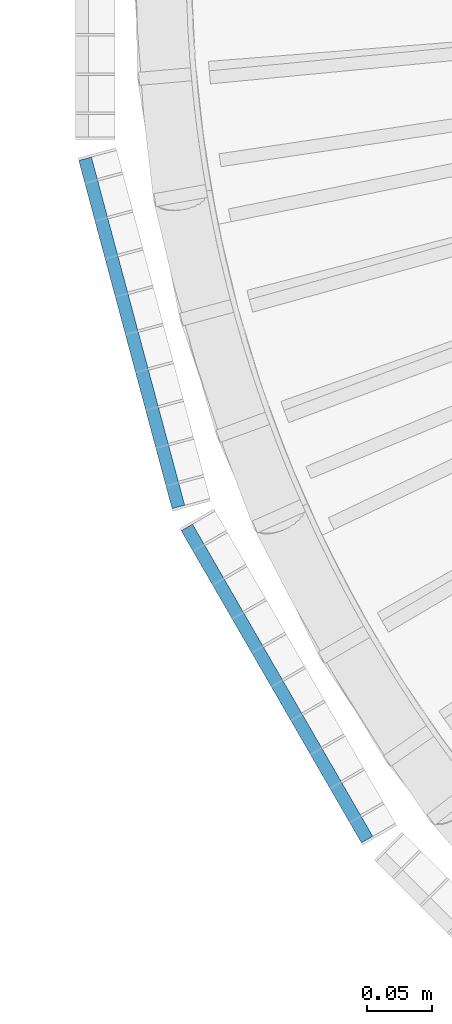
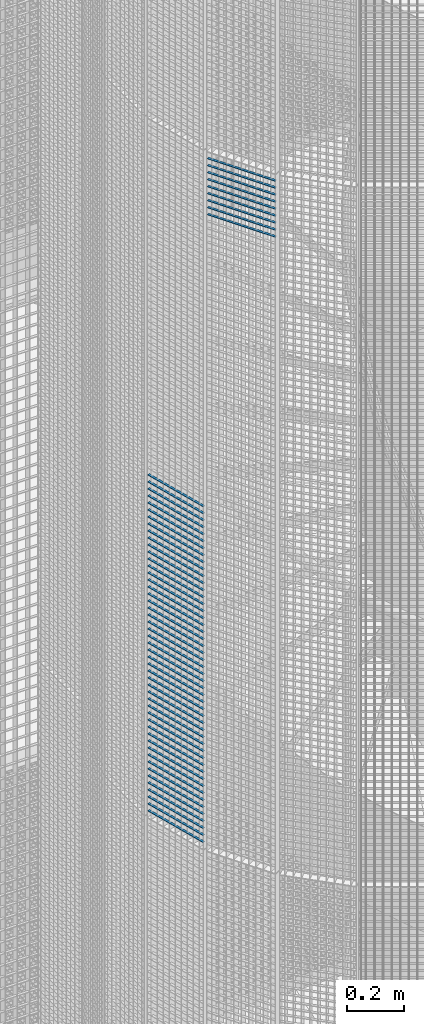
# One storey, part 346 of 1183: 58 beams, 2 elements without a shape of their own.
"""IFC2X3 building model written with IfcOpenShell, lengths in millimetres."""

from ifc_helpers import new_model, si_unit, frame, origin_with_axes, origin_2d_with_axis, place, context, subcontext, project, spatial, rectangle, extrude, material, type_object, element, aggregate, save


model = new_model("IFC2X3")

# Units and contexts
model_context = context("Model", 3, precision=1e-05, world=origin_with_axes())
body_context = subcontext(model_context, "Body", "Model", "MODEL_VIEW")
ifc_project = project(units=[si_unit("LENGTHUNIT", "METRE", prefix="MILLI"), si_unit("AREAUNIT", "SQUARE_METRE"), si_unit("VOLUMEUNIT", "CUBIC_METRE"), si_unit("MASSUNIT", "GRAM", prefix="KILO"), si_unit("TIMEUNIT", "SECOND"), si_unit("PLANEANGLEUNIT", "RADIAN"), si_unit("SOLIDANGLEUNIT", "STERADIAN"), si_unit("THERMODYNAMICTEMPERATUREUNIT", "DEGREE_CELSIUS"), si_unit("LUMINOUSINTENSITYUNIT", "LUMEN")], contexts=[model_context])

# Site, building, storey
site_placement = place(None, origin_with_axes())
site = spatial("IfcSite", under=ifc_project, at=site_placement, Name="Undefined", CompositionType="ELEMENT")
building_placement = place(site_placement, origin_with_axes())
building = spatial("IfcBuilding", under=site, at=building_placement, Name="Undefined", CompositionType="ELEMENT")
storey_placement = place(building_placement, origin_with_axes())
storey = spatial("IfcBuildingStorey", under=building, at=storey_placement, Name="Undefined", CompositionType="ELEMENT", Elevation=0.0)

# Assembly, beams
assembly_1_placement = place(storey_placement, origin_with_axes())
assembly_1 = element("IfcElementAssembly", 1, at=assembly_1_placement, inside=storey, Name="BORDURE", AssemblyPlace="NOTDEFINED", PredefinedType="NOTDEFINED")
ifc_material = material(Name="STEEL/S235JR")
beam_type = type_object("IfcBeamType", Name="PL2*10", PredefinedType="NOTDEFINED")
beam_1_placement = place(assembly_1_placement, frame((20560.1769047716, -421.483733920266, 13470.0), z_axis=(-0.965925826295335, -0.258819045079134, 0.0), x_axis=(-0.258819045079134, 0.965925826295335, 0.0)))
beam_1 = element("IfcBeam", 2, at=beam_1_placement, type_object=beam_type, material=ifc_material, Name="ENTRETOISE", context=body_context, shape_type="SweptSolid", body=[
    extrude(rectangle(XDim=2.0, YDim=10.0, at=origin_2d_with_axis()), frame((275.999999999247, 9.09494701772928e-13, 1.53210777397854e-14), z_axis=(-1.0, 0.0, 0.0), x_axis=(0.0, -1.0, 0.0)), (0.0, 0.0, 1.0), 276.0),
])
beam_2_placement = place(assembly_1_placement, frame((20560.1769047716, -421.483733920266, 13440.0), z_axis=(-0.965925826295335, -0.258819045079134, 0.0), x_axis=(-0.258819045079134, 0.965925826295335, 0.0)))
beam_2 = element("IfcBeam", 3, at=beam_2_placement, type_object=beam_type, material=ifc_material, Name="ENTRETOISE", context=body_context, shape_type="SweptSolid", body=[
    extrude(rectangle(XDim=2.0, YDim=10.0, at=origin_2d_with_axis()), frame((275.999999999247, 9.09494701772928e-13, 1.53210777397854e-14), z_axis=(-1.0, 0.0, 0.0), x_axis=(0.0, -1.0, 0.0)), (0.0, 0.0, 1.0), 276.0),
])
beam_3_placement = place(assembly_1_placement, frame((20560.1769047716, -421.483733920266, 13410.0), z_axis=(-0.965925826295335, -0.258819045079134, 0.0), x_axis=(-0.258819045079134, 0.965925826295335, 0.0)))
beam_3 = element("IfcBeam", 4, at=beam_3_placement, type_object=beam_type, material=ifc_material, Name="ENTRETOISE", context=body_context, shape_type="SweptSolid", body=[
    extrude(rectangle(XDim=2.0, YDim=10.0, at=origin_2d_with_axis()), frame((275.999999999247, 9.09494701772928e-13, 1.53210777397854e-14), z_axis=(-1.0, 0.0, 0.0), x_axis=(0.0, -1.0, 0.0)), (0.0, 0.0, 1.0), 276.0),
])
beam_4_placement = place(assembly_1_placement, frame((20560.1769047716, -421.483733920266, 13380.0), z_axis=(-0.965925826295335, -0.258819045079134, 0.0), x_axis=(-0.258819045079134, 0.965925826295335, 0.0)))
beam_4 = element("IfcBeam", 5, at=beam_4_placement, type_object=beam_type, material=ifc_material, Name="ENTRETOISE", context=body_context, shape_type="SweptSolid", body=[
    extrude(rectangle(XDim=2.0, YDim=10.0, at=origin_2d_with_axis()), frame((275.999999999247, 9.09494701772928e-13, 1.53210777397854e-14), z_axis=(-1.0, 0.0, 0.0), x_axis=(0.0, -1.0, 0.0)), (0.0, 0.0, 1.0), 276.0),
])
beam_5_placement = place(assembly_1_placement, frame((20560.1769047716, -421.483733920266, 13350.0), z_axis=(-0.965925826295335, -0.258819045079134, 0.0), x_axis=(-0.258819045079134, 0.965925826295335, 0.0)))
beam_5 = element("IfcBeam", 6, at=beam_5_placement, type_object=beam_type, material=ifc_material, Name="ENTRETOISE", context=body_context, shape_type="SweptSolid", body=[
    extrude(rectangle(XDim=2.0, YDim=10.0, at=origin_2d_with_axis()), frame((275.999999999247, 9.09494701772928e-13, 1.53210777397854e-14), z_axis=(-1.0, 0.0, 0.0), x_axis=(0.0, -1.0, 0.0)), (0.0, 0.0, 1.0), 276.0),
])
beam_6_placement = place(assembly_1_placement, frame((20560.1769047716, -421.483733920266, 13320.0), z_axis=(-0.965925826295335, -0.258819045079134, 0.0), x_axis=(-0.258819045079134, 0.965925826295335, 0.0)))
beam_6 = element("IfcBeam", 7, at=beam_6_placement, type_object=beam_type, material=ifc_material, Name="ENTRETOISE", context=body_context, shape_type="SweptSolid", body=[
    extrude(rectangle(XDim=2.0, YDim=10.0, at=origin_2d_with_axis()), frame((275.999999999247, 9.09494701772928e-13, 1.53210777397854e-14), z_axis=(-1.0, 0.0, 0.0), x_axis=(0.0, -1.0, 0.0)), (0.0, 0.0, 1.0), 276.0),
])
beam_7_placement = place(assembly_1_placement, frame((20560.1769047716, -421.483733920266, 13290.0), z_axis=(-0.965925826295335, -0.258819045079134, 0.0), x_axis=(-0.258819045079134, 0.965925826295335, 0.0)))
beam_7 = element("IfcBeam", 8, at=beam_7_placement, type_object=beam_type, material=ifc_material, Name="ENTRETOISE", context=body_context, shape_type="SweptSolid", body=[
    extrude(rectangle(XDim=2.0, YDim=10.0, at=origin_2d_with_axis()), frame((275.999999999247, 9.09494701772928e-13, 1.53210777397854e-14), z_axis=(-1.0, 0.0, 0.0), x_axis=(0.0, -1.0, 0.0)), (0.0, 0.0, 1.0), 276.0),
])
beam_8_placement = place(assembly_1_placement, frame((20560.1769047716, -421.483733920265, 13260.0), z_axis=(-0.965925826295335, -0.258819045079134, 0.0), x_axis=(-0.258819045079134, 0.965925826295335, 0.0)))
beam_8 = element("IfcBeam", 9, at=beam_8_placement, type_object=beam_type, material=ifc_material, Name="ENTRETOISE", context=body_context, shape_type="SweptSolid", body=[
    extrude(rectangle(XDim=2.0, YDim=10.0, at=origin_2d_with_axis()), frame((275.999999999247, 9.09494701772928e-13, 1.53210777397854e-14), z_axis=(-1.0, 0.0, 0.0), x_axis=(0.0, -1.0, 0.0)), (0.0, 0.0, 1.0), 276.0),
])
beam_9_placement = place(assembly_1_placement, frame((20560.1769047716, -421.483733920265, 13230.0), z_axis=(-0.965925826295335, -0.258819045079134, 0.0), x_axis=(-0.258819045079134, 0.965925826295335, 0.0)))
beam_9 = element("IfcBeam", 10, at=beam_9_placement, type_object=beam_type, material=ifc_material, Name="ENTRETOISE", context=body_context, shape_type="SweptSolid", body=[
    extrude(rectangle(XDim=2.0, YDim=10.0, at=origin_2d_with_axis()), frame((275.999999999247, 9.09494701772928e-13, 1.53210777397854e-14), z_axis=(-1.0, 0.0, 0.0), x_axis=(0.0, -1.0, 0.0)), (0.0, 0.0, 1.0), 276.0),
])
beam_10_placement = place(assembly_1_placement, frame((20560.1769047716, -421.483733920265, 13200.0), z_axis=(-0.965925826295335, -0.258819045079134, 0.0), x_axis=(-0.258819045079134, 0.965925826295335, 0.0)))
beam_10 = element("IfcBeam", 11, at=beam_10_placement, type_object=beam_type, material=ifc_material, Name="ENTRETOISE", context=body_context, shape_type="SweptSolid", body=[
    extrude(rectangle(XDim=2.0, YDim=10.0, at=origin_2d_with_axis()), frame((275.999999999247, 9.09494701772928e-13, 1.53210777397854e-14), z_axis=(-1.0, 0.0, 0.0), x_axis=(0.0, -1.0, 0.0)), (0.0, 0.0, 1.0), 276.0),
])
beam_11_placement = place(assembly_1_placement, frame((20560.1769047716, -421.483733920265, 13170.0), z_axis=(-0.965925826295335, -0.258819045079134, 0.0), x_axis=(-0.258819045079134, 0.965925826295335, 0.0)))
beam_11 = element("IfcBeam", 12, at=beam_11_placement, type_object=beam_type, material=ifc_material, Name="ENTRETOISE", context=body_context, shape_type="SweptSolid", body=[
    extrude(rectangle(XDim=2.0, YDim=10.0, at=origin_2d_with_axis()), frame((275.999999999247, 9.09494701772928e-13, 1.53210777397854e-14), z_axis=(-1.0, 0.0, 0.0), x_axis=(0.0, -1.0, 0.0)), (0.0, 0.0, 1.0), 276.0),
])
beam_12_placement = place(assembly_1_placement, frame((20560.1769047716, -421.483733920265, 13140.0), z_axis=(-0.965925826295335, -0.258819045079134, 0.0), x_axis=(-0.258819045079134, 0.965925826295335, 0.0)))
beam_12 = element("IfcBeam", 13, at=beam_12_placement, type_object=beam_type, material=ifc_material, Name="ENTRETOISE", context=body_context, shape_type="SweptSolid", body=[
    extrude(rectangle(XDim=2.0, YDim=10.0, at=origin_2d_with_axis()), frame((275.999999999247, 9.09494701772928e-13, 1.53210777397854e-14), z_axis=(-1.0, 0.0, 0.0), x_axis=(0.0, -1.0, 0.0)), (0.0, 0.0, 1.0), 276.0),
])
beam_13_placement = place(assembly_1_placement, frame((20560.1769047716, -421.483733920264, 12720.0), z_axis=(-0.965925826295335, -0.258819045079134, 0.0), x_axis=(-0.258819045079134, 0.965925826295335, 0.0)))
beam_13 = element("IfcBeam", 14, at=beam_13_placement, type_object=beam_type, material=ifc_material, Name="ENTRETOISE", context=body_context, shape_type="SweptSolid", body=[
    extrude(rectangle(XDim=2.0, YDim=10.0, at=origin_2d_with_axis()), frame((275.999999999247, 9.09494701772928e-13, 1.53210777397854e-14), z_axis=(-1.0, 0.0, 0.0), x_axis=(0.0, -1.0, 0.0)), (0.0, 0.0, 1.0), 276.0),
])
beam_14_placement = place(assembly_1_placement, frame((20560.1769047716, -421.483733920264, 12690.0), z_axis=(-0.965925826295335, -0.258819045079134, 0.0), x_axis=(-0.258819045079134, 0.965925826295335, 0.0)))
beam_14 = element("IfcBeam", 15, at=beam_14_placement, type_object=beam_type, material=ifc_material, Name="ENTRETOISE", context=body_context, shape_type="SweptSolid", body=[
    extrude(rectangle(XDim=2.0, YDim=10.0, at=origin_2d_with_axis()), frame((275.999999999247, 9.09494701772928e-13, 1.53210777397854e-14), z_axis=(-1.0, 0.0, 0.0), x_axis=(0.0, -1.0, 0.0)), (0.0, 0.0, 1.0), 276.0),
])
beam_15_placement = place(assembly_1_placement, frame((20560.1769047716, -421.483733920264, 12750.0), z_axis=(-0.965925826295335, -0.258819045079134, 0.0), x_axis=(-0.258819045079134, 0.965925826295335, 0.0)))
beam_15 = element("IfcBeam", 16, at=beam_15_placement, type_object=beam_type, material=ifc_material, Name="ENTRETOISE", context=body_context, shape_type="SweptSolid", body=[
    extrude(rectangle(XDim=2.0, YDim=10.0, at=origin_2d_with_axis()), frame((275.999999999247, 9.09494701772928e-13, 1.53210777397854e-14), z_axis=(-1.0, 0.0, 0.0), x_axis=(0.0, -1.0, 0.0)), (0.0, 0.0, 1.0), 276.0),
])
beam_16_placement = place(assembly_1_placement, frame((20560.1769047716, -421.483733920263, 12660.0), z_axis=(-0.965925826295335, -0.258819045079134, 0.0), x_axis=(-0.258819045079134, 0.965925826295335, 0.0)))
beam_16 = element("IfcBeam", 17, at=beam_16_placement, type_object=beam_type, material=ifc_material, Name="ENTRETOISE", context=body_context, shape_type="SweptSolid", body=[
    extrude(rectangle(XDim=2.0, YDim=10.0, at=origin_2d_with_axis()), frame((275.999999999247, 9.09494701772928e-13, 1.53210777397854e-14), z_axis=(-1.0, 0.0, 0.0), x_axis=(0.0, -1.0, 0.0)), (0.0, 0.0, 1.0), 276.0),
])
beam_17_placement = place(assembly_1_placement, frame((20560.1769047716, -421.483733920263, 12630.0), z_axis=(-0.965925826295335, -0.258819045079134, 0.0), x_axis=(-0.258819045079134, 0.965925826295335, 0.0)))
beam_17 = element("IfcBeam", 18, at=beam_17_placement, type_object=beam_type, material=ifc_material, Name="ENTRETOISE", context=body_context, shape_type="SweptSolid", body=[
    extrude(rectangle(XDim=2.0, YDim=10.0, at=origin_2d_with_axis()), frame((275.999999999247, 9.09494701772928e-13, 1.53210777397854e-14), z_axis=(-1.0, 0.0, 0.0), x_axis=(0.0, -1.0, 0.0)), (0.0, 0.0, 1.0), 276.0),
])
beam_18_placement = place(assembly_1_placement, frame((20560.1769047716, -421.483733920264, 12780.0), z_axis=(-0.965925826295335, -0.258819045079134, 0.0), x_axis=(-0.258819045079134, 0.965925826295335, 0.0)))
beam_18 = element("IfcBeam", 19, at=beam_18_placement, type_object=beam_type, material=ifc_material, Name="ENTRETOISE", context=body_context, shape_type="SweptSolid", body=[
    extrude(rectangle(XDim=2.0, YDim=10.0, at=origin_2d_with_axis()), frame((275.999999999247, 9.09494701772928e-13, 1.53210777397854e-14), z_axis=(-1.0, 0.0, 0.0), x_axis=(0.0, -1.0, 0.0)), (0.0, 0.0, 1.0), 276.0),
])
beam_19_placement = place(assembly_1_placement, frame((20560.1769047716, -421.483733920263, 12600.0), z_axis=(-0.965925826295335, -0.258819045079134, 0.0), x_axis=(-0.258819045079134, 0.965925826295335, 0.0)))
beam_19 = element("IfcBeam", 20, at=beam_19_placement, type_object=beam_type, material=ifc_material, Name="ENTRETOISE", context=body_context, shape_type="SweptSolid", body=[
    extrude(rectangle(XDim=2.0, YDim=10.0, at=origin_2d_with_axis()), frame((275.999999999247, 9.09494701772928e-13, 1.53210777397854e-14), z_axis=(-1.0, 0.0, 0.0), x_axis=(0.0, -1.0, 0.0)), (0.0, 0.0, 1.0), 276.0),
])
beam_20_placement = place(assembly_1_placement, frame((20560.1769047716, -421.483733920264, 12810.0), z_axis=(-0.965925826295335, -0.258819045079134, 0.0), x_axis=(-0.258819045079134, 0.965925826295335, 0.0)))
beam_20 = element("IfcBeam", 21, at=beam_20_placement, type_object=beam_type, material=ifc_material, Name="ENTRETOISE", context=body_context, shape_type="SweptSolid", body=[
    extrude(rectangle(XDim=2.0, YDim=10.0, at=origin_2d_with_axis()), frame((275.999999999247, 9.09494701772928e-13, 1.53210777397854e-14), z_axis=(-1.0, 0.0, 0.0), x_axis=(0.0, -1.0, 0.0)), (0.0, 0.0, 1.0), 276.0),
])
beam_21_placement = place(assembly_1_placement, frame((20560.1769047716, -421.483733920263, 12570.0), z_axis=(-0.965925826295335, -0.258819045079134, 0.0), x_axis=(-0.258819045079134, 0.965925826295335, 0.0)))
beam_21 = element("IfcBeam", 22, at=beam_21_placement, type_object=beam_type, material=ifc_material, Name="ENTRETOISE", context=body_context, shape_type="SweptSolid", body=[
    extrude(rectangle(XDim=2.0, YDim=10.0, at=origin_2d_with_axis()), frame((275.999999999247, 9.09494701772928e-13, 1.53210777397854e-14), z_axis=(-1.0, 0.0, 0.0), x_axis=(0.0, -1.0, 0.0)), (0.0, 0.0, 1.0), 276.0),
])
beam_22_placement = place(assembly_1_placement, frame((20560.1769047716, -421.483733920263, 12540.0), z_axis=(-0.965925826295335, -0.258819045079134, 0.0), x_axis=(-0.258819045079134, 0.965925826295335, 0.0)))
beam_22 = element("IfcBeam", 23, at=beam_22_placement, type_object=beam_type, material=ifc_material, Name="ENTRETOISE", context=body_context, shape_type="SweptSolid", body=[
    extrude(rectangle(XDim=2.0, YDim=10.0, at=origin_2d_with_axis()), frame((275.999999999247, 9.09494701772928e-13, 1.53210777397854e-14), z_axis=(-1.0, 0.0, 0.0), x_axis=(0.0, -1.0, 0.0)), (0.0, 0.0, 1.0), 276.0),
])
beam_23_placement = place(assembly_1_placement, frame((20560.1769047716, -421.483733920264, 12840.0), z_axis=(-0.965925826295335, -0.258819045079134, 0.0), x_axis=(-0.258819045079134, 0.965925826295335, 0.0)))
beam_23 = element("IfcBeam", 24, at=beam_23_placement, type_object=beam_type, material=ifc_material, Name="ENTRETOISE", context=body_context, shape_type="SweptSolid", body=[
    extrude(rectangle(XDim=2.0, YDim=10.0, at=origin_2d_with_axis()), frame((275.999999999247, 9.09494701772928e-13, 1.53210777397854e-14), z_axis=(-1.0, 0.0, 0.0), x_axis=(0.0, -1.0, 0.0)), (0.0, 0.0, 1.0), 276.0),
])
beam_24_placement = place(assembly_1_placement, frame((20560.1769047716, -421.483733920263, 12510.0), z_axis=(-0.965925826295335, -0.258819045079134, 0.0), x_axis=(-0.258819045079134, 0.965925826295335, 0.0)))
beam_24 = element("IfcBeam", 25, at=beam_24_placement, type_object=beam_type, material=ifc_material, Name="ENTRETOISE", context=body_context, shape_type="SweptSolid", body=[
    extrude(rectangle(XDim=2.0, YDim=10.0, at=origin_2d_with_axis()), frame((275.999999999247, 9.09494701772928e-13, 1.53210777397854e-14), z_axis=(-1.0, 0.0, 0.0), x_axis=(0.0, -1.0, 0.0)), (0.0, 0.0, 1.0), 276.0),
])
beam_25_placement = place(assembly_1_placement, frame((20560.1769047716, -421.483733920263, 12480.0), z_axis=(-0.965925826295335, -0.258819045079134, 0.0), x_axis=(-0.258819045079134, 0.965925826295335, 0.0)))
beam_25 = element("IfcBeam", 26, at=beam_25_placement, type_object=beam_type, material=ifc_material, Name="ENTRETOISE", context=body_context, shape_type="SweptSolid", body=[
    extrude(rectangle(XDim=2.0, YDim=10.0, at=origin_2d_with_axis()), frame((275.999999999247, 9.09494701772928e-13, 1.53210777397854e-14), z_axis=(-1.0, 0.0, 0.0), x_axis=(0.0, -1.0, 0.0)), (0.0, 0.0, 1.0), 276.0),
])
beam_26_placement = place(assembly_1_placement, frame((20560.1769047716, -421.483733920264, 12870.0), z_axis=(-0.965925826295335, -0.258819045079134, 0.0), x_axis=(-0.258819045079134, 0.965925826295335, 0.0)))
beam_26 = element("IfcBeam", 27, at=beam_26_placement, type_object=beam_type, material=ifc_material, Name="ENTRETOISE", context=body_context, shape_type="SweptSolid", body=[
    extrude(rectangle(XDim=2.0, YDim=10.0, at=origin_2d_with_axis()), frame((275.999999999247, 9.09494701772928e-13, 1.53210777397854e-14), z_axis=(-1.0, 0.0, 0.0), x_axis=(0.0, -1.0, 0.0)), (0.0, 0.0, 1.0), 276.0),
])
beam_27_placement = place(assembly_1_placement, frame((20560.1769047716, -421.483733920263, 12450.0), z_axis=(-0.965925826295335, -0.258819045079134, 0.0), x_axis=(-0.258819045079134, 0.965925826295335, 0.0)))
beam_27 = element("IfcBeam", 28, at=beam_27_placement, type_object=beam_type, material=ifc_material, Name="ENTRETOISE", context=body_context, shape_type="SweptSolid", body=[
    extrude(rectangle(XDim=2.0, YDim=10.0, at=origin_2d_with_axis()), frame((275.999999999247, 9.09494701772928e-13, 1.53210777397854e-14), z_axis=(-1.0, 0.0, 0.0), x_axis=(0.0, -1.0, 0.0)), (0.0, 0.0, 1.0), 276.0),
])
beam_28_placement = place(assembly_1_placement, frame((20560.1769047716, -421.483733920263, 12420.0), z_axis=(-0.965925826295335, -0.258819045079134, 0.0), x_axis=(-0.258819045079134, 0.965925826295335, 0.0)))
beam_28 = element("IfcBeam", 29, at=beam_28_placement, type_object=beam_type, material=ifc_material, Name="ENTRETOISE", context=body_context, shape_type="SweptSolid", body=[
    extrude(rectangle(XDim=2.0, YDim=10.0, at=origin_2d_with_axis()), frame((275.999999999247, 9.09494701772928e-13, 1.53210777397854e-14), z_axis=(-1.0, 0.0, 0.0), x_axis=(0.0, -1.0, 0.0)), (0.0, 0.0, 1.0), 276.0),
])
beam_29_placement = place(assembly_1_placement, frame((20560.1769047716, -421.483733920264, 12900.0), z_axis=(-0.965925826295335, -0.258819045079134, 0.0), x_axis=(-0.258819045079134, 0.965925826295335, 0.0)))
beam_29 = element("IfcBeam", 30, at=beam_29_placement, type_object=beam_type, material=ifc_material, Name="ENTRETOISE", context=body_context, shape_type="SweptSolid", body=[
    extrude(rectangle(XDim=2.0, YDim=10.0, at=origin_2d_with_axis()), frame((275.999999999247, 9.09494701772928e-13, 1.53210777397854e-14), z_axis=(-1.0, 0.0, 0.0), x_axis=(0.0, -1.0, 0.0)), (0.0, 0.0, 1.0), 276.0),
])
beam_30_placement = place(assembly_1_placement, frame((20560.1769047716, -421.483733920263, 12390.0), z_axis=(-0.965925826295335, -0.258819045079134, 0.0), x_axis=(-0.258819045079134, 0.965925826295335, 0.0)))
beam_30 = element("IfcBeam", 31, at=beam_30_placement, type_object=beam_type, material=ifc_material, Name="ENTRETOISE", context=body_context, shape_type="SweptSolid", body=[
    extrude(rectangle(XDim=2.0, YDim=10.0, at=origin_2d_with_axis()), frame((275.999999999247, 9.09494701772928e-13, 1.53210777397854e-14), z_axis=(-1.0, 0.0, 0.0), x_axis=(0.0, -1.0, 0.0)), (0.0, 0.0, 1.0), 276.0),
])
beam_31_placement = place(assembly_1_placement, frame((20560.1769047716, -421.483733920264, 12930.0), z_axis=(-0.965925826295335, -0.258819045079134, 0.0), x_axis=(-0.258819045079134, 0.965925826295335, 0.0)))
beam_31 = element("IfcBeam", 32, at=beam_31_placement, type_object=beam_type, material=ifc_material, Name="ENTRETOISE", context=body_context, shape_type="SweptSolid", body=[
    extrude(rectangle(XDim=2.0, YDim=10.0, at=origin_2d_with_axis()), frame((275.999999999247, 9.09494701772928e-13, 1.53210777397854e-14), z_axis=(-1.0, 0.0, 0.0), x_axis=(0.0, -1.0, 0.0)), (0.0, 0.0, 1.0), 276.0),
])
beam_32_placement = place(assembly_1_placement, frame((20560.1769047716, -421.483733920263, 12360.0), z_axis=(-0.965925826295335, -0.258819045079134, 0.0), x_axis=(-0.258819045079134, 0.965925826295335, 0.0)))
beam_32 = element("IfcBeam", 33, at=beam_32_placement, type_object=beam_type, material=ifc_material, Name="ENTRETOISE", context=body_context, shape_type="SweptSolid", body=[
    extrude(rectangle(XDim=2.0, YDim=10.0, at=origin_2d_with_axis()), frame((275.999999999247, 9.09494701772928e-13, 1.53210777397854e-14), z_axis=(-1.0, 0.0, 0.0), x_axis=(0.0, -1.0, 0.0)), (0.0, 0.0, 1.0), 276.0),
])
beam_33_placement = place(assembly_1_placement, frame((20560.1769047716, -421.483733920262, 12330.0), z_axis=(-0.965925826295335, -0.258819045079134, 0.0), x_axis=(-0.258819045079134, 0.965925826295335, 0.0)))
beam_33 = element("IfcBeam", 34, at=beam_33_placement, type_object=beam_type, material=ifc_material, Name="ENTRETOISE", context=body_context, shape_type="SweptSolid", body=[
    extrude(rectangle(XDim=2.0, YDim=10.0, at=origin_2d_with_axis()), frame((275.999999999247, 9.09494701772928e-13, 1.53210777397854e-14), z_axis=(-1.0, 0.0, 0.0), x_axis=(0.0, -1.0, 0.0)), (0.0, 0.0, 1.0), 276.0),
])
beam_34_placement = place(assembly_1_placement, frame((20560.1769047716, -421.483733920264, 12960.0), z_axis=(-0.965925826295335, -0.258819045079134, 0.0), x_axis=(-0.258819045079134, 0.965925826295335, 0.0)))
beam_34 = element("IfcBeam", 35, at=beam_34_placement, type_object=beam_type, material=ifc_material, Name="ENTRETOISE", context=body_context, shape_type="SweptSolid", body=[
    extrude(rectangle(XDim=2.0, YDim=10.0, at=origin_2d_with_axis()), frame((275.999999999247, 9.09494701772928e-13, 1.53210777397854e-14), z_axis=(-1.0, 0.0, 0.0), x_axis=(0.0, -1.0, 0.0)), (0.0, 0.0, 1.0), 276.0),
])
beam_35_placement = place(assembly_1_placement, frame((20560.1769047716, -421.483733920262, 12300.0), z_axis=(-0.965925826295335, -0.258819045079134, 0.0), x_axis=(-0.258819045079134, 0.965925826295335, 0.0)))
beam_35 = element("IfcBeam", 36, at=beam_35_placement, type_object=beam_type, material=ifc_material, Name="ENTRETOISE", context=body_context, shape_type="SweptSolid", body=[
    extrude(rectangle(XDim=2.0, YDim=10.0, at=origin_2d_with_axis()), frame((275.999999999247, 9.09494701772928e-13, 1.53210777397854e-14), z_axis=(-1.0, 0.0, 0.0), x_axis=(0.0, -1.0, 0.0)), (0.0, 0.0, 1.0), 276.0),
])
beam_36_placement = place(assembly_1_placement, frame((20560.1769047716, -421.483733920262, 12270.0), z_axis=(-0.965925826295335, -0.258819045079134, 0.0), x_axis=(-0.258819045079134, 0.965925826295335, 0.0)))
beam_36 = element("IfcBeam", 37, at=beam_36_placement, type_object=beam_type, material=ifc_material, Name="ENTRETOISE", context=body_context, shape_type="SweptSolid", body=[
    extrude(rectangle(XDim=2.0, YDim=10.0, at=origin_2d_with_axis()), frame((275.999999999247, 9.09494701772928e-13, 1.53210777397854e-14), z_axis=(-1.0, 0.0, 0.0), x_axis=(0.0, -1.0, 0.0)), (0.0, 0.0, 1.0), 276.0),
])
beam_37_placement = place(assembly_1_placement, frame((20560.1769047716, -421.483733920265, 12990.0), z_axis=(-0.965925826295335, -0.258819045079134, 0.0), x_axis=(-0.258819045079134, 0.965925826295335, 0.0)))
beam_37 = element("IfcBeam", 38, at=beam_37_placement, type_object=beam_type, material=ifc_material, Name="ENTRETOISE", context=body_context, shape_type="SweptSolid", body=[
    extrude(rectangle(XDim=2.0, YDim=10.0, at=origin_2d_with_axis()), frame((275.999999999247, 9.09494701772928e-13, 1.53210777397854e-14), z_axis=(-1.0, 0.0, 0.0), x_axis=(0.0, -1.0, 0.0)), (0.0, 0.0, 1.0), 276.0),
])
beam_38_placement = place(assembly_1_placement, frame((20560.1769047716, -421.483733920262, 12240.0), z_axis=(-0.965925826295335, -0.258819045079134, 0.0), x_axis=(-0.258819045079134, 0.965925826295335, 0.0)))
beam_38 = element("IfcBeam", 39, at=beam_38_placement, type_object=beam_type, material=ifc_material, Name="ENTRETOISE", context=body_context, shape_type="SweptSolid", body=[
    extrude(rectangle(XDim=2.0, YDim=10.0, at=origin_2d_with_axis()), frame((275.999999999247, 9.09494701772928e-13, 1.53210777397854e-14), z_axis=(-1.0, 0.0, 0.0), x_axis=(0.0, -1.0, 0.0)), (0.0, 0.0, 1.0), 276.0),
])
beam_39_placement = place(assembly_1_placement, frame((20560.1769047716, -421.483733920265, 13020.0), z_axis=(-0.965925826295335, -0.258819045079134, 0.0), x_axis=(-0.258819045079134, 0.965925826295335, 0.0)))
beam_39 = element("IfcBeam", 40, at=beam_39_placement, type_object=beam_type, material=ifc_material, Name="ENTRETOISE", context=body_context, shape_type="SweptSolid", body=[
    extrude(rectangle(XDim=2.0, YDim=10.0, at=origin_2d_with_axis()), frame((275.999999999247, 9.09494701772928e-13, 1.53210777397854e-14), z_axis=(-1.0, 0.0, 0.0), x_axis=(0.0, -1.0, 0.0)), (0.0, 0.0, 1.0), 276.0),
])
beam_40_placement = place(assembly_1_placement, frame((20560.1769047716, -421.483733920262, 12210.0), z_axis=(-0.965925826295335, -0.258819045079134, 0.0), x_axis=(-0.258819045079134, 0.965925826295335, 0.0)))
beam_40 = element("IfcBeam", 41, at=beam_40_placement, type_object=beam_type, material=ifc_material, Name="ENTRETOISE", context=body_context, shape_type="SweptSolid", body=[
    extrude(rectangle(XDim=2.0, YDim=10.0, at=origin_2d_with_axis()), frame((275.999999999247, 9.09494701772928e-13, 1.53210777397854e-14), z_axis=(-1.0, 0.0, 0.0), x_axis=(0.0, -1.0, 0.0)), (0.0, 0.0, 1.0), 276.0),
])
beam_41_placement = place(assembly_1_placement, frame((20560.1769047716, -421.483733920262, 12180.0), z_axis=(-0.965925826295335, -0.258819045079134, 0.0), x_axis=(-0.258819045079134, 0.965925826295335, 0.0)))
beam_41 = element("IfcBeam", 42, at=beam_41_placement, type_object=beam_type, material=ifc_material, Name="ENTRETOISE", context=body_context, shape_type="SweptSolid", body=[
    extrude(rectangle(XDim=2.0, YDim=10.0, at=origin_2d_with_axis()), frame((275.999999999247, 9.09494701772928e-13, 1.53210777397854e-14), z_axis=(-1.0, 0.0, 0.0), x_axis=(0.0, -1.0, 0.0)), (0.0, 0.0, 1.0), 276.0),
])
beam_42_placement = place(assembly_1_placement, frame((20560.1769047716, -421.483733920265, 13050.0), z_axis=(-0.965925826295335, -0.258819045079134, 0.0), x_axis=(-0.258819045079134, 0.965925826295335, 0.0)))
beam_42 = element("IfcBeam", 43, at=beam_42_placement, type_object=beam_type, material=ifc_material, Name="ENTRETOISE", context=body_context, shape_type="SweptSolid", body=[
    extrude(rectangle(XDim=2.0, YDim=10.0, at=origin_2d_with_axis()), frame((275.999999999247, 9.09494701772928e-13, 1.53210777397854e-14), z_axis=(-1.0, 0.0, 0.0), x_axis=(0.0, -1.0, 0.0)), (0.0, 0.0, 1.0), 276.0),
])
beam_43_placement = place(assembly_1_placement, frame((20560.1769047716, -421.483733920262, 12150.0), z_axis=(-0.965925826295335, -0.258819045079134, 0.0), x_axis=(-0.258819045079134, 0.965925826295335, 0.0)))
beam_43 = element("IfcBeam", 44, at=beam_43_placement, type_object=beam_type, material=ifc_material, Name="ENTRETOISE", context=body_context, shape_type="SweptSolid", body=[
    extrude(rectangle(XDim=2.0, YDim=10.0, at=origin_2d_with_axis()), frame((275.999999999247, 9.09494701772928e-13, 1.53210777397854e-14), z_axis=(-1.0, 0.0, 0.0), x_axis=(0.0, -1.0, 0.0)), (0.0, 0.0, 1.0), 276.0),
])
beam_44_placement = place(assembly_1_placement, frame((20560.1769047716, -421.483733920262, 12120.0), z_axis=(-0.965925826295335, -0.258819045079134, 0.0), x_axis=(-0.258819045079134, 0.965925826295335, 0.0)))
beam_44 = element("IfcBeam", 45, at=beam_44_placement, type_object=beam_type, material=ifc_material, Name="ENTRETOISE", context=body_context, shape_type="SweptSolid", body=[
    extrude(rectangle(XDim=2.0, YDim=10.0, at=origin_2d_with_axis()), frame((275.999999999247, 9.09494701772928e-13, 1.53210777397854e-14), z_axis=(-1.0, 0.0, 0.0), x_axis=(0.0, -1.0, 0.0)), (0.0, 0.0, 1.0), 276.0),
])
beam_45_placement = place(assembly_1_placement, frame((20560.1769047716, -421.483733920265, 13080.0), z_axis=(-0.965925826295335, -0.258819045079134, 0.0), x_axis=(-0.258819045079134, 0.965925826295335, 0.0)))
beam_45 = element("IfcBeam", 46, at=beam_45_placement, type_object=beam_type, material=ifc_material, Name="ENTRETOISE", context=body_context, shape_type="SweptSolid", body=[
    extrude(rectangle(XDim=2.0, YDim=10.0, at=origin_2d_with_axis()), frame((275.999999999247, 9.09494701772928e-13, 1.53210777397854e-14), z_axis=(-1.0, 0.0, 0.0), x_axis=(0.0, -1.0, 0.0)), (0.0, 0.0, 1.0), 276.0),
])
beam_46_placement = place(assembly_1_placement, frame((20560.1769047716, -421.483733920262, 12090.0), z_axis=(-0.965925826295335, -0.258819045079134, 0.0), x_axis=(-0.258819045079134, 0.965925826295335, 0.0)))
beam_46 = element("IfcBeam", 47, at=beam_46_placement, type_object=beam_type, material=ifc_material, Name="ENTRETOISE", context=body_context, shape_type="SweptSolid", body=[
    extrude(rectangle(XDim=2.0, YDim=10.0, at=origin_2d_with_axis()), frame((275.999999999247, 9.09494701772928e-13, 1.53210777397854e-14), z_axis=(-1.0, 0.0, 0.0), x_axis=(0.0, -1.0, 0.0)), (0.0, 0.0, 1.0), 276.0),
])
beam_47_placement = place(assembly_1_placement, frame((20560.1769047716, -421.483733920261, 12060.0), z_axis=(-0.965925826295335, -0.258819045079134, 0.0), x_axis=(-0.258819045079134, 0.965925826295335, 0.0)))
beam_47 = element("IfcBeam", 48, at=beam_47_placement, type_object=beam_type, material=ifc_material, Name="ENTRETOISE", context=body_context, shape_type="SweptSolid", body=[
    extrude(rectangle(XDim=2.0, YDim=10.0, at=origin_2d_with_axis()), frame((275.999999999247, 9.09494701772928e-13, 1.53210777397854e-14), z_axis=(-1.0, 0.0, 0.0), x_axis=(0.0, -1.0, 0.0)), (0.0, 0.0, 1.0), 276.0),
])
beam_48_placement = place(assembly_1_placement, frame((20560.1769047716, -421.483733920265, 13110.0), z_axis=(-0.965925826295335, -0.258819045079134, 0.0), x_axis=(-0.258819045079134, 0.965925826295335, 0.0)))
beam_48 = element("IfcBeam", 49, at=beam_48_placement, type_object=beam_type, material=ifc_material, Name="ENTRETOISE", context=body_context, shape_type="SweptSolid", body=[
    extrude(rectangle(XDim=2.0, YDim=10.0, at=origin_2d_with_axis()), frame((275.999999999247, 9.09494701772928e-13, 1.53210777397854e-14), z_axis=(-1.0, 0.0, 0.0), x_axis=(0.0, -1.0, 0.0)), (0.0, 0.0, 1.0), 276.0),
])
beam_49_placement = place(assembly_1_placement, frame((20560.1769047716, -421.48373392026, 12030.0), z_axis=(-0.965925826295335, -0.258819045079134, 0.0), x_axis=(-0.258819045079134, 0.965925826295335, 0.0)))
beam_49 = element("IfcBeam", 50, at=beam_49_placement, type_object=beam_type, material=ifc_material, Name="ENTRETOISE", context=body_context, shape_type="SweptSolid", body=[
    extrude(rectangle(XDim=2.0, YDim=10.0, at=origin_2d_with_axis()), frame((275.999999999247, 9.09494701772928e-13, 1.53210777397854e-14), z_axis=(-1.0, 0.0, 0.0), x_axis=(0.0, -1.0, 0.0)), (0.0, 0.0, 1.0), 276.0),
])
aggregate(assembly_1, [beam_1, beam_2, beam_3, beam_4, beam_5, beam_6, beam_7, beam_8, beam_9, beam_10, beam_11, beam_12, beam_13, beam_14, beam_15, beam_16, beam_17, beam_18, beam_19, beam_20, beam_21, beam_22, beam_23, beam_24, beam_25, beam_26, beam_27, beam_28, beam_29, beam_30, beam_31, beam_32, beam_33, beam_34, beam_35, beam_36, beam_37, beam_38, beam_39, beam_40, beam_41, beam_42, beam_43, beam_44, beam_45, beam_46, beam_47, beam_48, beam_49])

assembly_2_placement = place(storey_placement, origin_with_axes())
assembly_2 = element("IfcElementAssembly", 51, at=assembly_2_placement, inside=storey, Name="BORDURE", AssemblyPlace="NOTDEFINED", PredefinedType="NOTDEFINED")
beam_50_placement = place(assembly_2_placement, frame((20704.6960350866, -676.248044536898, 14970.0), z_axis=(-0.866025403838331, -0.499999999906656, 0.0), x_axis=(-0.49999999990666, 0.866025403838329, 0.0)))
beam_50 = element("IfcBeam", 52, at=beam_50_placement, type_object=beam_type, material=ifc_material, Name="ENTRETOISE", context=body_context, shape_type="SweptSolid", body=[
    extrude(rectangle(XDim=2.0, YDim=10.0, at=origin_2d_with_axis()), frame((275.999999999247, 9.09494701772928e-13, 1.53210777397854e-14), z_axis=(-1.0, 0.0, 0.0), x_axis=(0.0, -1.0, 0.0)), (0.0, 0.0, 1.0), 276.0),
])
beam_51_placement = place(assembly_2_placement, frame((20704.6960350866, -676.248044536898, 14940.0), z_axis=(-0.866025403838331, -0.499999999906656, 0.0), x_axis=(-0.49999999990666, 0.866025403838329, 0.0)))
beam_51 = element("IfcBeam", 53, at=beam_51_placement, type_object=beam_type, material=ifc_material, Name="ENTRETOISE", context=body_context, shape_type="SweptSolid", body=[
    extrude(rectangle(XDim=2.0, YDim=10.0, at=origin_2d_with_axis()), frame((275.999999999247, 9.09494701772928e-13, 1.53210777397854e-14), z_axis=(-1.0, 0.0, 0.0), x_axis=(0.0, -1.0, 0.0)), (0.0, 0.0, 1.0), 276.0),
])
beam_52_placement = place(assembly_2_placement, frame((20704.6960350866, -676.248044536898, 14910.0), z_axis=(-0.866025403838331, -0.499999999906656, 0.0), x_axis=(-0.49999999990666, 0.866025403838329, 0.0)))
beam_52 = element("IfcBeam", 54, at=beam_52_placement, type_object=beam_type, material=ifc_material, Name="ENTRETOISE", context=body_context, shape_type="SweptSolid", body=[
    extrude(rectangle(XDim=2.0, YDim=10.0, at=origin_2d_with_axis()), frame((275.999999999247, 9.09494701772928e-13, 1.53210777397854e-14), z_axis=(-1.0, 0.0, 0.0), x_axis=(0.0, -1.0, 0.0)), (0.0, 0.0, 1.0), 276.0),
])
beam_53_placement = place(assembly_2_placement, frame((20704.6960350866, -676.248044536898, 14880.0), z_axis=(-0.866025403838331, -0.499999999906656, 0.0), x_axis=(-0.49999999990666, 0.866025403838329, 0.0)))
beam_53 = element("IfcBeam", 55, at=beam_53_placement, type_object=beam_type, material=ifc_material, Name="ENTRETOISE", context=body_context, shape_type="SweptSolid", body=[
    extrude(rectangle(XDim=2.0, YDim=10.0, at=origin_2d_with_axis()), frame((275.999999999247, 9.09494701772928e-13, 1.53210777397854e-14), z_axis=(-1.0, 0.0, 0.0), x_axis=(0.0, -1.0, 0.0)), (0.0, 0.0, 1.0), 276.0),
])
beam_54_placement = place(assembly_2_placement, frame((20704.6960350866, -676.248044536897, 14850.0), z_axis=(-0.866025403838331, -0.499999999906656, 0.0), x_axis=(-0.49999999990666, 0.866025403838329, 0.0)))
beam_54 = element("IfcBeam", 56, at=beam_54_placement, type_object=beam_type, material=ifc_material, Name="ENTRETOISE", context=body_context, shape_type="SweptSolid", body=[
    extrude(rectangle(XDim=2.0, YDim=10.0, at=origin_2d_with_axis()), frame((275.999999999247, 9.09494701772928e-13, 1.53210777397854e-14), z_axis=(-1.0, 0.0, 0.0), x_axis=(0.0, -1.0, 0.0)), (0.0, 0.0, 1.0), 276.0),
])
beam_55_placement = place(assembly_2_placement, frame((20704.6960350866, -676.248044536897, 14820.0), z_axis=(-0.866025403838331, -0.499999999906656, 0.0), x_axis=(-0.49999999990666, 0.866025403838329, 0.0)))
beam_55 = element("IfcBeam", 57, at=beam_55_placement, type_object=beam_type, material=ifc_material, Name="ENTRETOISE", context=body_context, shape_type="SweptSolid", body=[
    extrude(rectangle(XDim=2.0, YDim=10.0, at=origin_2d_with_axis()), frame((275.999999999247, 9.09494701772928e-13, 1.53210777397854e-14), z_axis=(-1.0, 0.0, 0.0), x_axis=(0.0, -1.0, 0.0)), (0.0, 0.0, 1.0), 276.0),
])
beam_56_placement = place(assembly_2_placement, frame((20704.6960350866, -676.248044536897, 14790.0), z_axis=(-0.866025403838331, -0.499999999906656, 0.0), x_axis=(-0.49999999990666, 0.866025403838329, 0.0)))
beam_56 = element("IfcBeam", 58, at=beam_56_placement, type_object=beam_type, material=ifc_material, Name="ENTRETOISE", context=body_context, shape_type="SweptSolid", body=[
    extrude(rectangle(XDim=2.0, YDim=10.0, at=origin_2d_with_axis()), frame((275.999999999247, 9.09494701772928e-13, 1.53210777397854e-14), z_axis=(-1.0, 0.0, 0.0), x_axis=(0.0, -1.0, 0.0)), (0.0, 0.0, 1.0), 276.0),
])
beam_57_placement = place(assembly_2_placement, frame((20704.6960350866, -676.248044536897, 14760.0), z_axis=(-0.866025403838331, -0.499999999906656, 0.0), x_axis=(-0.49999999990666, 0.866025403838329, 0.0)))
beam_57 = element("IfcBeam", 59, at=beam_57_placement, type_object=beam_type, material=ifc_material, Name="ENTRETOISE", context=body_context, shape_type="SweptSolid", body=[
    extrude(rectangle(XDim=2.0, YDim=10.0, at=origin_2d_with_axis()), frame((275.999999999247, 9.09494701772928e-13, 1.53210777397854e-14), z_axis=(-1.0, 0.0, 0.0), x_axis=(0.0, -1.0, 0.0)), (0.0, 0.0, 1.0), 276.0),
])
beam_58_placement = place(assembly_2_placement, frame((20704.6960350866, -676.248044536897, 14730.0), z_axis=(-0.866025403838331, -0.499999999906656, 0.0), x_axis=(-0.49999999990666, 0.866025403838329, 0.0)))
beam_58 = element("IfcBeam", 60, at=beam_58_placement, type_object=beam_type, material=ifc_material, Name="ENTRETOISE", context=body_context, shape_type="SweptSolid", body=[
    extrude(rectangle(XDim=2.0, YDim=10.0, at=origin_2d_with_axis()), frame((275.999999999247, 9.09494701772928e-13, 1.53210777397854e-14), z_axis=(-1.0, 0.0, 0.0), x_axis=(0.0, -1.0, 0.0)), (0.0, 0.0, 1.0), 276.0),
])
aggregate(assembly_2, [beam_50, beam_51, beam_52, beam_53, beam_54, beam_55, beam_56, beam_57, beam_58])

save(model, "model.ifc")
